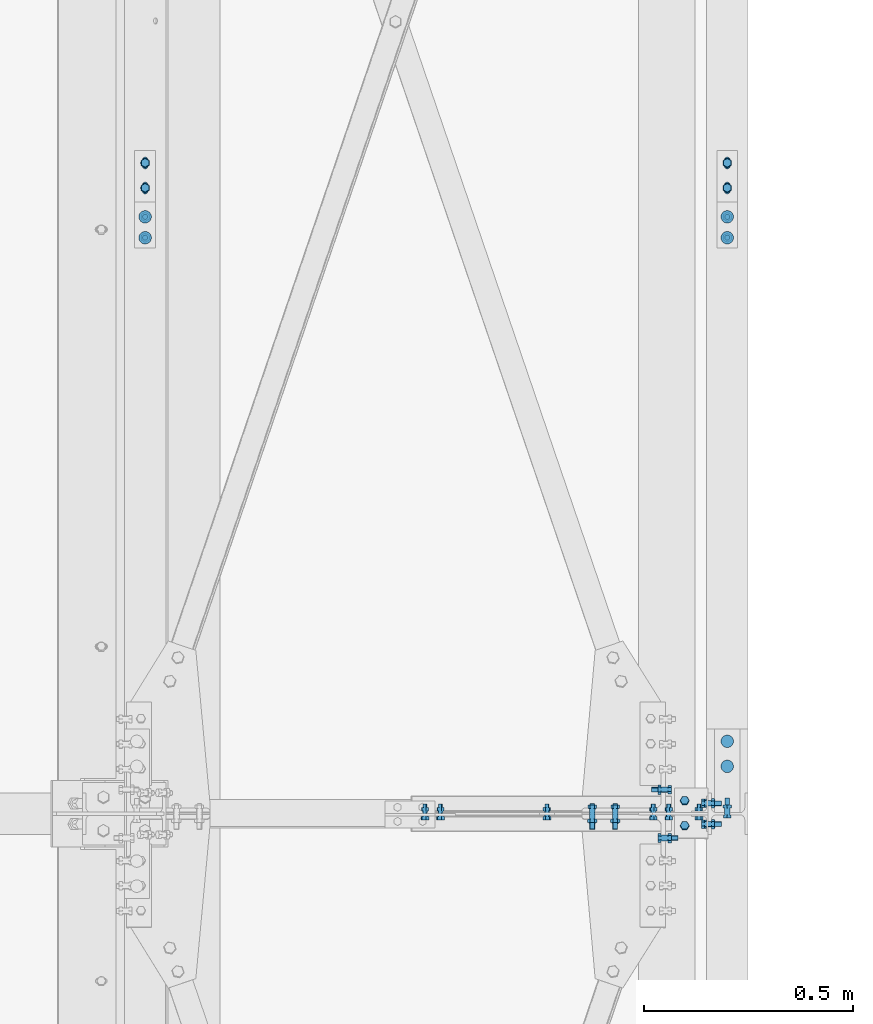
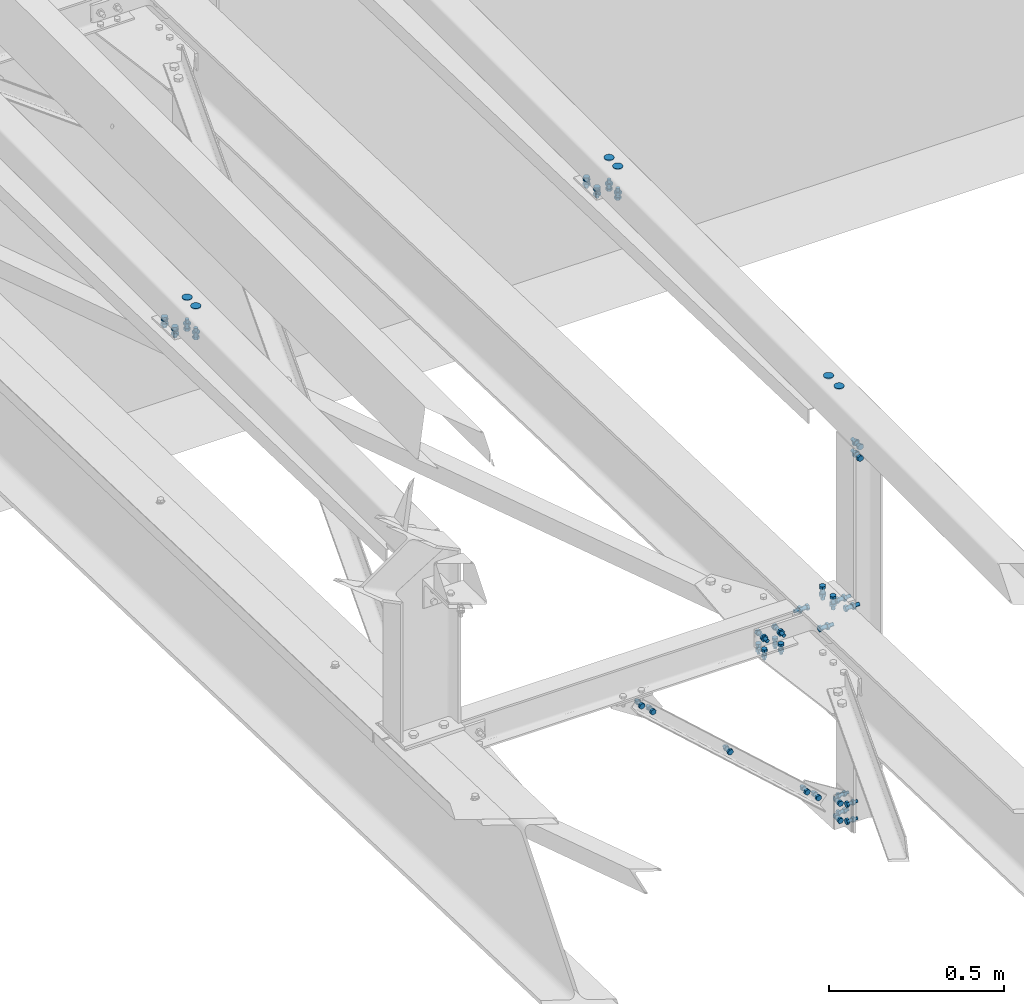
# One storey, part 322 of 362: 21 mechanical fasteners.
"""IFC2X3 building model written with IfcOpenShell, lengths in millimetres."""

from ifc_helpers import new_model, si_unit, frame, frame_2d, origin_with_axes, origin_2d_with_axis, place, context, subcontext, project, spatial, polyline, circle_curve, parameter, trimmed, segment, composite_curve, circle, outline, extrude, source, transform, mapped, material, type_object, element, save


model = new_model("IFC2X3")

# Units and contexts
model_context = context("Model", 3, precision=1e-05, world=origin_with_axes())
body_context = subcontext(model_context, "Body", "Model", "MODEL_VIEW")
ifc_project = project(units=[si_unit("LENGTHUNIT", "METRE", prefix="MILLI"), si_unit("AREAUNIT", "SQUARE_METRE"), si_unit("VOLUMEUNIT", "CUBIC_METRE"), si_unit("MASSUNIT", "GRAM", prefix="KILO"), si_unit("TIMEUNIT", "SECOND"), si_unit("PLANEANGLEUNIT", "RADIAN"), si_unit("SOLIDANGLEUNIT", "STERADIAN"), si_unit("THERMODYNAMICTEMPERATUREUNIT", "DEGREE_CELSIUS"), si_unit("LUMINOUSINTENSITYUNIT", "LUMEN")], contexts=[model_context])

# Site, building, storey
site_placement = place(None, origin_with_axes())
site = spatial("IfcSite", under=ifc_project, at=site_placement, Name="Undefined", CompositionType="ELEMENT")
building_placement = place(site_placement, origin_with_axes())
building = spatial("IfcBuilding", under=site, at=building_placement, Name="Undefined", CompositionType="ELEMENT")
storey_placement = place(building_placement, origin_with_axes())
storey = spatial("IfcBuildingStorey", under=building, at=storey_placement, Name="Undefined", CompositionType="ELEMENT", Elevation=0.0)

# Mechanical fasteners
ifc_material_1 = material(Name="6.8")
mechanical_fastener_type = type_object("IfcMechanicalFastenerType", Name="Bolt assembly")
shared_shape_1 = source(origin_with_axes(), body_context, "Body", "SweptSolid", [
    extrude(circle(Radius=15.0, at=origin_2d_with_axis()), frame((0.0, 0.0, 0.0), z_axis=(0.0, 1.0, 0.0), x_axis=(1.0, 0.0, 0.0)), (0.0, 0.0, 1.0), 4.1),
])
mechanical_fastener_1_placement = place(storey_placement, frame((39775.0, 3973.5, 8550.0), z_axis=(1.0, 0.0, 0.0), x_axis=(0.0, -1.0, 0.0)))
element("IfcMechanicalFastener", 1, at=mechanical_fastener_1_placement, inside=storey, type_object=mechanical_fastener_type, material=ifc_material_1, Name="Bolt assembly", NominalDiameter=30.0, NominalLength=4.0, context=body_context, shape_type="MappedRepresentation", body=[
    mapped(shared_shape_1, transform((0.0, 0.0, 0.0))),
    mapped(shared_shape_1, transform((60.0, 0.0, 0.0))),
])
for number, where, z_axis, x_axis, name in (
    (2, (39775.0, 5230.39, 8550.0), (1.0, 0.0, 0.0), (0.0, -1.0, 0.0), "Bolt assembly"),
    (3, (38380.0, 5230.39, 8550.0), (1.0, 0.0, 0.0), (0.0, -1.0, 0.0), "Bolt assembly"),
):
    element("IfcMechanicalFastener", number, at=place(storey_placement, frame(where, z_axis=z_axis, x_axis=x_axis)), inside=storey, type_object=mechanical_fastener_type, material=ifc_material_1, Name=name, NominalDiameter=30.0, NominalLength=4.0, context=body_context, shape_type="MappedRepresentation", body=[
        mapped(shared_shape_1, transform((0.0, 0.0, 0.0))),
        mapped(shared_shape_1, transform((49.9999999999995, 0.0, -3.63797880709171e-12))),
    ])
shared_shape_2 = source(origin_with_axes(), body_context, "Body", "SweptSolid", [
    extrude(circle(Radius=6.0, at=origin_2d_with_axis()), frame((0.0, -6.9, 0.0), z_axis=(0.0, 1.0, 0.0), x_axis=(1.0, 0.0, 0.0)), (0.0, 0.0, 1.0), 4.0),
    extrude(circle(Radius=6.0, at=origin_2d_with_axis()), frame((0.0, 2.90000527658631, 0.0), z_axis=(0.0, 1.0, 0.0), x_axis=(1.0, 0.0, 0.0)), (0.0, 0.0, 1.0), 4.1),
    extrude(circle(Radius=6.0, at=origin_2d_with_axis()), frame((0.0, -2.99999932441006, 0.0), z_axis=(0.0, 1.0, 0.0), x_axis=(1.0, 0.0, 0.0)), (0.0, 0.0, 1.0), 6.0),
    extrude(outline(polyline([(9.81495457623, 0.0), (4.907477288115, 8.5000000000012), (-4.907477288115, 8.5000000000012), (-9.81495457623, 0.0), (-4.907477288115, -8.5000000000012), (4.907477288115, -8.5000000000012), (9.81495457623, 0.0)])), frame((0.0, -14.5000000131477, 0.0), z_axis=(0.0, 1.0, 0.0), x_axis=(1.0, 0.0, 0.0)), (0.0, 0.0, 1.0), 7.5),
    extrude(circle(Radius=5.0, at=origin_2d_with_axis()), frame((0.0, -7.0, 0.0), z_axis=(0.0, 1.0, 0.0), x_axis=(1.0, 0.0, 0.0)), (0.0, 0.0, 1.0), 30.0),
    extrude(outline(polyline([(9.23760430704, 0.0), (4.61880215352, 8.00000000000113), (-4.61880215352, 8.00000000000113), (-9.23760430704, 0.0), (-4.61880215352, -8.00000000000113), (4.61880215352, -8.00000000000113), (9.23760430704, 0.0)])), frame((0.0, 7.0, 0.0), z_axis=(0.0, 1.0, 0.0), x_axis=(1.0, 0.0, 0.0)), (0.0, 0.0, 1.0), 8.4),
])
mechanical_fastener_2_placement = place(storey_placement, frame((39342.7441351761, 3800.00038406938, 7497.58868230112), z_axis=(-0.743333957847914, 0.0, 0.668920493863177), x_axis=(0.668920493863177, 0.0, 0.743333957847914)))
element("IfcMechanicalFastener", 4, at=mechanical_fastener_2_placement, inside=storey, type_object=mechanical_fastener_type, material=ifc_material_1, Name="Bolt assembly", NominalDiameter=10.0, NominalLength=30.0, context=body_context, shape_type="MappedRepresentation", body=[
    mapped(shared_shape_2, transform((0.0, 0.0, 0.0))),
])
mechanical_fastener_3_placement = place(storey_placement, frame((39707.0000003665, 3800.0, 7160.00000925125), z_axis=(0.0, 0.0, 1.0), x_axis=(1.0, 0.0, 0.0)))
element("IfcMechanicalFastener", 5, at=mechanical_fastener_3_placement, inside=storey, type_object=mechanical_fastener_type, material=ifc_material_1, Name="Bolt assembly", NominalDiameter=10.0, NominalLength=30.0, context=body_context, shape_type="MappedRepresentation", body=[
    mapped(shared_shape_2, transform((0.0, 0.0, -30.0))),
    mapped(shared_shape_2, transform((0.0, 0.0, 30.0))),
])
ifc_material_2 = material(Name="8.8-SB-ZINGUE")
shared_shape_3 = source(origin_with_axes(), body_context, "Body", "SweptSolid", [
    extrude(circle(Radius=7.0, at=origin_2d_with_axis()), frame((0.0, -0.100011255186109, 0.0), z_axis=(0.0, 1.0, 0.0), x_axis=(1.0, 0.0, 0.0)), (0.0, 0.0, 1.0), 4.1),
    extrude(circle(Radius=7.0, at=origin_2d_with_axis()), frame((0.0, -5.8999542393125, 0.0), z_axis=(0.0, 1.0, 0.0), x_axis=(1.0, 0.0, 0.0)), (0.0, 0.0, 1.0), 6.0),
    extrude(outline(polyline([(10.39230484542, 0.0), (5.19615242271, 9.00000000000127), (-5.19615242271, 9.00000000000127), (-10.39230484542, 0.0), (-5.19615242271, -9.00000000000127), (5.19615242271, -9.00000000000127), (10.39230484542, 0.0)])), frame((0.0, -13.9199542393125, 0.0), z_axis=(0.0, 1.0, 0.0), x_axis=(1.0, 0.0, 0.0)), (0.0, 0.0, 1.0), 7.92),
    extrude(circle(Radius=6.0, at=origin_2d_with_axis()), frame((0.0, -5.9999542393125, 0.0), z_axis=(0.0, 1.0, 0.0), x_axis=(1.0, 0.0, 0.0)), (0.0, 0.0, 1.0), 30.0),
    extrude(outline(polyline([(11.5008173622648, 0.0), (5.7504086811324, 9.96000000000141), (-5.7504086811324, 9.96000000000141), (-11.5008173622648, 0.0), (-5.7504086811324, -9.96000000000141), (5.7504086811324, -9.96000000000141), (11.5008173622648, 0.0)])), frame((0.0, 4.00000005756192, 0.0), z_axis=(0.0, 1.0, 0.0), x_axis=(1.0, 0.0, 0.0)), (0.0, 0.0, 1.0), 7.92),
])
for number, where, z_axis, x_axis, name in (
    (6, (39775.0, 5180.38587692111, 8450.0), (1.0, 0.0, 0.0), (0.0, 1.0, 0.0), "Bolt assembly"),
    (7, (38380.0, 5180.38587692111, 8450.0), (1.0, 0.0, 0.0), (0.0, 1.0, 0.0), "Bolt assembly"),
):
    element("IfcMechanicalFastener", number, at=place(storey_placement, frame(where, z_axis=z_axis, x_axis=x_axis)), inside=storey, type_object=mechanical_fastener_type, material=ifc_material_2, Name=name, NominalDiameter=12.0, NominalLength=30.0, context=body_context, shape_type="MappedRepresentation", body=[
        mapped(shared_shape_3, transform((0.0, 0.0, 0.0))),
        mapped(shared_shape_3, transform((49.9999999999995, 0.0, -3.63797880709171e-12))),
    ])
shared_shape_4 = source(origin_with_axes(), body_context, "Body", "SweptSolid", [
    extrude(circle(Radius=7.0, at=origin_2d_with_axis()), frame((0.0, -2.4001048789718, 0.0), z_axis=(0.0, 1.0, 0.0), x_axis=(1.0, 0.0, 0.0)), (0.0, 0.0, 1.0), 5.0),
    extrude(circle(Radius=7.0, at=origin_2d_with_axis()), frame((0.0, 3.3998951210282, 0.0), z_axis=(0.0, 1.0, 0.0), x_axis=(1.0, 0.0, 0.0)), (0.0, 0.0, 1.0), 10.1),
    extrude(outline(polyline([(10.39230484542, 0.0), (5.19615242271, 9.00000000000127), (-5.19615242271, 9.00000000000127), (-10.39230484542, 0.0), (-5.19615242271, -9.00000000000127), (5.19615242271, -9.00000000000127), (10.39230484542, 0.0)])), frame((0.0, -10.4201048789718, 0.0), z_axis=(0.0, 1.0, 0.0), x_axis=(1.0, 0.0, 0.0)), (0.0, 0.0, 1.0), 7.92),
    extrude(circle(Radius=6.0, at=origin_2d_with_axis()), frame((0.0, -2.50010487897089, 0.0), z_axis=(0.0, 1.0, 0.0), x_axis=(1.0, 0.0, 0.0)), (0.0, 0.0, 1.0), 40.0),
    extrude(outline(polyline([(11.5008173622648, 0.0), (5.7504086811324, 9.96000000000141), (-5.7504086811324, 9.96000000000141), (-11.5008173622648, 0.0), (-5.7504086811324, -9.96000000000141), (5.7504086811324, -9.96000000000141), (11.5008173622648, 0.0)])), frame((0.0, 13.4998951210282, 0.0), z_axis=(0.0, 1.0, 0.0), x_axis=(1.0, 0.0, 0.0)), (0.0, 0.0, 1.0), 7.92),
])
mechanical_fastener_4_placement = place(storey_placement, frame((39775.0, 3800.00010487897, 8370.0), z_axis=(-1.0, 0.0, 0.0), x_axis=(0.0, 0.0, 1.0)))
element("IfcMechanicalFastener", 8, at=mechanical_fastener_4_placement, inside=storey, type_object=mechanical_fastener_type, material=ifc_material_2, Name="Bolt assembly", NominalDiameter=12.0, NominalLength=40.0, context=body_context, shape_type="MappedRepresentation", body=[
    mapped(shared_shape_4, transform((0.0, 0.0, 0.0))),
    mapped(shared_shape_4, transform((40.0, 0.0, 0.0))),
])
shared_shape_5 = source(origin_with_axes(), body_context, "Body", "SweptSolid", [
    extrude(circle(Radius=7.0, at=origin_2d_with_axis()), frame((0.0, -0.0668320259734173, 0.0), z_axis=(0.0, 1.0, 0.0), x_axis=(1.0, 0.0, 0.0)), (0.0, 0.0, 1.0), 4.1),
    extrude(outline(composite_curve([segment(polyline([(-7.0, 7.0), (7.0, 7.0)]), True, "CONTINUOUS"), segment(trimmed(circle_curve(frame_2d((7.0, 0.0), x_axis=(0.0, 1.0)), 7.0), [parameter(0.0)], [parameter(3.14159265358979)], False, "PARAMETER"), True, "CONTINUOUS"), segment(polyline([(7.0, -7.0), (-7.0, -7.0)]), True, "CONTINUOUS"), segment(trimmed(circle_curve(frame_2d((-7.0, 0.0), x_axis=(0.0, -1.0)), 7.0), [parameter(0.0)], [parameter(3.14159265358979)], False, "PARAMETER"), True, "DISCONTINUOUS")], self_intersect=False)), frame((0.0, -5.8999542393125, 0.0), z_axis=(0.0, 1.0, 0.0), x_axis=(1.0, 0.0, 0.0)), (0.0, 0.0, 1.0), 6.0),
    extrude(outline(polyline([(10.39230484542, 0.0), (5.19615242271, 9.00000000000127), (-5.19615242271, 9.00000000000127), (-10.39230484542, 0.0), (-5.19615242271, -9.00000000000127), (5.19615242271, -9.00000000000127), (10.39230484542, 0.0)])), frame((0.0, -17.8800021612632, 0.0), z_axis=(0.0, 1.0, 0.0), x_axis=(1.0, 0.0, 0.0)), (0.0, 0.0, 1.0), 7.92),
    extrude(circle(Radius=6.0, at=origin_2d_with_axis()), frame((0.0, -9.96000216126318, 0.0), z_axis=(0.0, 1.0, 0.0), x_axis=(1.0, 0.0, 0.0)), (0.0, 0.0, 1.0), 30.0),
    extrude(circle(Radius=10.8, at=origin_2d_with_axis()), frame((0.0, -9.96000216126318, 0.0), z_axis=(0.0, 1.0, 0.0), x_axis=(1.0, 0.0, 0.0)), (0.0, 0.0, 1.0), 3.96),
    extrude(outline(polyline([(11.5008173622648, 0.0), (5.7504086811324, 9.96000000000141), (-5.7504086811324, 9.96000000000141), (-11.5008173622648, 0.0), (-5.7504086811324, -9.96000000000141), (5.7504086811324, -9.96000000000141), (11.5008173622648, 0.0)])), frame((0.0, 4.03316797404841, 0.0), z_axis=(0.0, 1.0, 0.0), x_axis=(1.0, 0.0, 0.0)), (0.0, 0.0, 1.0), 7.92),
])
mechanical_fastener_5_placement = place(storey_placement, frame((39775.0, 5359.3365202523, 8386.85855943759), z_axis=(1.0, 0.0, 0.0), x_axis=(0.0, -0.999506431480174, 0.0314148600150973)))
element("IfcMechanicalFastener", 9, at=mechanical_fastener_5_placement, inside=storey, type_object=mechanical_fastener_type, material=ifc_material_2, Name="Bolt assembly", NominalDiameter=12.0, NominalLength=30.0, context=body_context, shape_type="MappedRepresentation", body=[
    mapped(shared_shape_5, transform((0.0, 0.0, 0.0))),
    mapped(shared_shape_5, transform((60.0, 0.0, 0.0))),
])
shared_shape_6 = source(origin_with_axes(), body_context, "Body", "SweptSolid", [
    extrude(circle(Radius=7.0, at=origin_2d_with_axis()), frame((0.0, -0.100011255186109, 0.0), z_axis=(0.0, 1.0, 0.0), x_axis=(1.0, 0.0, 0.0)), (0.0, 0.0, 1.0), 4.1),
    extrude(outline(composite_curve([segment(polyline([(-7.0, 7.0), (7.0, 7.0)]), True, "CONTINUOUS"), segment(trimmed(circle_curve(frame_2d((7.0, 0.0), x_axis=(0.0, 1.0)), 7.0), [parameter(0.0)], [parameter(3.14159265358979)], False, "PARAMETER"), True, "CONTINUOUS"), segment(polyline([(7.0, -7.0), (-7.0, -7.0)]), True, "CONTINUOUS"), segment(trimmed(circle_curve(frame_2d((-7.0, 0.0), x_axis=(0.0, -1.0)), 7.0), [parameter(0.0)], [parameter(3.14159265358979)], False, "PARAMETER"), True, "DISCONTINUOUS")], self_intersect=False)), frame((0.0, -5.8999542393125, 0.0), z_axis=(0.0, 1.0, 0.0), x_axis=(1.0, 0.0, 0.0)), (0.0, 0.0, 1.0), 6.0),
    extrude(outline(polyline([(10.39230484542, 0.0), (5.19615242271, 9.00000000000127), (-5.19615242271, 9.00000000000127), (-10.39230484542, 0.0), (-5.19615242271, -9.00000000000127), (5.19615242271, -9.00000000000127), (10.39230484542, 0.0)])), frame((0.0, -17.8800021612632, 0.0), z_axis=(0.0, 1.0, 0.0), x_axis=(1.0, 0.0, 0.0)), (0.0, 0.0, 1.0), 7.92),
    extrude(circle(Radius=6.0, at=origin_2d_with_axis()), frame((0.0, -9.96000216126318, 0.0), z_axis=(0.0, 1.0, 0.0), x_axis=(1.0, 0.0, 0.0)), (0.0, 0.0, 1.0), 30.0),
    extrude(circle(Radius=10.8, at=origin_2d_with_axis()), frame((0.0, -9.96000216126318, 0.0), z_axis=(0.0, 1.0, 0.0), x_axis=(1.0, 0.0, 0.0)), (0.0, 0.0, 1.0), 3.96),
    extrude(outline(polyline([(11.5008173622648, 0.0), (5.7504086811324, 9.96000000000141), (-5.7504086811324, 9.96000000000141), (-11.5008173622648, 0.0), (-5.7504086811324, -9.96000000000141), (5.7504086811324, -9.96000000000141), (11.5008173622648, 0.0)])), frame((0.0, 4.00000005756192, 0.0), z_axis=(0.0, 1.0, 0.0), x_axis=(1.0, 0.0, 0.0)), (0.0, 0.0, 1.0), 7.92),
])
mechanical_fastener_6_placement = place(storey_placement, frame((38380.0, 5359.3365202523, 8386.85855943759), z_axis=(1.0, 0.0, 0.0), x_axis=(0.0, -0.999506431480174, 0.0314148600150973)))
element("IfcMechanicalFastener", 10, at=mechanical_fastener_6_placement, inside=storey, type_object=mechanical_fastener_type, material=ifc_material_2, Name="Bolt assembly", NominalDiameter=12.0, NominalLength=30.0, context=body_context, shape_type="MappedRepresentation", body=[
    mapped(shared_shape_6, transform((0.0, 0.0, 0.0))),
    mapped(shared_shape_6, transform((60.0, 0.0, 0.0))),
])
shared_shape_7 = source(origin_with_axes(), body_context, "Body", "SweptSolid", [
    extrude(circle(Radius=6.0, at=origin_2d_with_axis()), frame((0.0, -6.89961591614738, 0.0), z_axis=(0.0, 1.0, 0.0), x_axis=(1.0, 0.0, 0.0)), (0.0, 0.0, 1.0), 4.0),
    extrude(circle(Radius=6.0, at=origin_2d_with_axis()), frame((0.0, 2.90038411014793, 0.0), z_axis=(0.0, 1.0, 0.0), x_axis=(1.0, 0.0, 0.0)), (0.0, 0.0, 1.0), 4.1),
    extrude(circle(Radius=6.0, at=origin_2d_with_axis()), frame((0.0, -2.99999932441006, 0.0), z_axis=(0.0, 1.0, 0.0), x_axis=(1.0, 0.0, 0.0)), (0.0, 0.0, 1.0), 6.0),
    extrude(outline(polyline([(9.81495457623, 0.0), (4.907477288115, 8.5000000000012), (-4.907477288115, 8.5000000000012), (-9.81495457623, 0.0), (-4.907477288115, -8.5000000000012), (4.907477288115, -8.5000000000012), (9.81495457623, 0.0)])), frame((0.0, -14.4996159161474, 0.0), z_axis=(0.0, 1.0, 0.0), x_axis=(1.0, 0.0, 0.0)), (0.0, 0.0, 1.0), 7.5),
    extrude(circle(Radius=5.0, at=origin_2d_with_axis()), frame((0.0, -6.99961591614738, 0.0), z_axis=(0.0, 1.0, 0.0), x_axis=(1.0, 0.0, 0.0)), (0.0, 0.0, 1.0), 30.0),
    extrude(outline(polyline([(9.23760430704, 0.0), (4.61880215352, 8.00000000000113), (-4.61880215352, 8.00000000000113), (-9.23760430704, 0.0), (-4.61880215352, -8.00000000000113), (4.61880215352, -8.00000000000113), (9.23760430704, 0.0)])), frame((0.0, 7.00036854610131, 0.0), z_axis=(0.0, 1.0, 0.0), x_axis=(1.0, 0.0, 0.0)), (0.0, 0.0, 1.0), 8.4),
])
mechanical_fastener_7_placement = place(storey_placement, frame((39634.738223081, 3800.0, 7234.82545515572), z_axis=(-0.66892049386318, 0.0, -0.74333395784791), x_axis=(-0.743333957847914, 0.0, 0.668920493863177)))
element("IfcMechanicalFastener", 11, at=mechanical_fastener_7_placement, inside=storey, type_object=mechanical_fastener_type, material=ifc_material_1, Name="Bolt assembly", NominalDiameter=10.0, NominalLength=30.0, context=body_context, shape_type="MappedRepresentation", body=[
    mapped(shared_shape_7, transform((0.0, 0.0, 0.0))),
    mapped(shared_shape_7, transform((49.9999999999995, 0.0, -3.63797880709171e-12))),
])
shared_shape_8 = source(origin_with_axes(), body_context, "Body", "SweptSolid", [
    extrude(circle(Radius=6.0, at=origin_2d_with_axis()), frame((0.0, -6.89961591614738, 0.0), z_axis=(0.0, 1.0, 0.0), x_axis=(1.0, 0.0, 0.0)), (0.0, 0.0, 1.0), 4.0),
    extrude(circle(Radius=6.0, at=origin_2d_with_axis()), frame((0.0, 2.90038411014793, 0.0), z_axis=(0.0, 1.0, 0.0), x_axis=(1.0, 0.0, 0.0)), (0.0, 0.0, 1.0), 4.1),
    extrude(circle(Radius=6.0, at=origin_2d_with_axis()), frame((0.0, -4.88000000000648, 0.0), z_axis=(0.0, 1.0, 0.0), x_axis=(1.0, 0.0, 0.0)), (0.0, 0.0, 1.0), 6.0),
    extrude(outline(polyline([(9.81495457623, 0.0), (4.907477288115, 8.5000000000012), (-4.907477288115, 8.5000000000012), (-9.81495457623, 0.0), (-4.907477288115, -8.5000000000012), (4.907477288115, -8.5000000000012), (9.81495457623, 0.0)])), frame((0.0, -14.4996159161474, 0.0), z_axis=(0.0, 1.0, 0.0), x_axis=(1.0, 0.0, 0.0)), (0.0, 0.0, 1.0), 7.5),
    extrude(circle(Radius=5.0, at=origin_2d_with_axis()), frame((0.0, -6.99961591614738, 0.0), z_axis=(0.0, 1.0, 0.0), x_axis=(1.0, 0.0, 0.0)), (0.0, 0.0, 1.0), 30.0),
    extrude(outline(polyline([(9.23760430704, 0.0), (4.61880215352, 8.00000000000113), (-4.61880215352, 8.00000000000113), (-9.23760430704, 0.0), (-4.61880215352, -8.00000000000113), (4.61880215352, -8.00000000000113), (9.23760430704, 0.0)])), frame((0.0, 7.00036854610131, 0.0), z_axis=(0.0, 1.0, 0.0), x_axis=(1.0, 0.0, 0.0)), (0.0, 0.0, 1.0), 8.4),
])
mechanical_fastener_8_placement = place(storey_placement, frame((39050.7500471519, 3800.0, 7760.35190931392), z_axis=(0.668920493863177, 0.0, 0.743333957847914), x_axis=(0.743333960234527, 0.0, -0.668920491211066)))
element("IfcMechanicalFastener", 12, at=mechanical_fastener_8_placement, inside=storey, type_object=mechanical_fastener_type, material=ifc_material_1, Name="Bolt assembly", NominalDiameter=10.0, NominalLength=30.0, context=body_context, shape_type="MappedRepresentation", body=[
    mapped(shared_shape_8, transform((0.0, 0.0, 0.0))),
    mapped(shared_shape_8, transform((49.9999999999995, 0.0, -3.63797880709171e-12))),
])
shared_shape_9 = source(origin_with_axes(), body_context, "Body", "SweptSolid", [
    extrude(circle(Radius=6.0, at=origin_2d_with_axis()), frame((0.0, -0.100011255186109, 0.0), z_axis=(0.0, 1.0, 0.0), x_axis=(1.0, 0.0, 0.0)), (0.0, 0.0, 1.0), 8.1),
    extrude(circle(Radius=6.0, at=origin_2d_with_axis()), frame((0.0, -3.89999843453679, 0.0), z_axis=(0.0, 1.0, 0.0), x_axis=(1.0, 0.0, 0.0)), (0.0, 0.0, 1.0), 4.0),
    extrude(outline(polyline([(9.81495457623, 0.0), (4.907477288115, 8.5000000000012), (-4.907477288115, 8.5000000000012), (-9.81495457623, 0.0), (-4.907477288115, -8.5000000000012), (4.907477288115, -8.5000000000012), (9.81495457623, 0.0)])), frame((0.0, -11.5, 0.0), z_axis=(0.0, 1.0, 0.0), x_axis=(1.0, 0.0, 0.0)), (0.0, 0.0, 1.0), 7.5),
    extrude(circle(Radius=5.0, at=origin_2d_with_axis()), frame((0.0, -3.99999923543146, 0.0), z_axis=(0.0, 1.0, 0.0), x_axis=(1.0, 0.0, 0.0)), (0.0, 0.0, 1.0), 30.0),
    extrude(outline(polyline([(9.23760430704, 0.0), (4.61880215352, 8.00000000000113), (-4.61880215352, 8.00000000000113), (-9.23760430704, 0.0), (-4.61880215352, -8.00000000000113), (4.61880215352, -8.00000000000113), (9.23760430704, 0.0)])), frame((0.0, 8.00000527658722, 0.0), z_axis=(0.0, 1.0, 0.0), x_axis=(1.0, 0.0, 0.0)), (0.0, 0.0, 1.0), 8.4),
])
for number, where, z_axis, x_axis, name in (
    (13, (39729.0000003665, 3825.0, 7160.00000925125), (0.0, 0.0, 1.0), (0.0, -1.0, 0.0), "Bolt assembly"),
    (14, (39729.0000003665, 3775.0, 7160.00000925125), (0.0, 0.0, -1.0), (0.0, 1.0, 0.0), "Bolt assembly"),
):
    element("IfcMechanicalFastener", number, at=place(storey_placement, frame(where, z_axis=z_axis, x_axis=x_axis)), inside=storey, type_object=mechanical_fastener_type, material=ifc_material_1, Name=name, NominalDiameter=10.0, NominalLength=30.0, context=body_context, shape_type="MappedRepresentation", body=[
        mapped(shared_shape_9, transform((0.0, 0.0, -30.0))),
        mapped(shared_shape_9, transform((0.0, 0.0, 30.0))),
    ])
ifc_material_3 = material(Name="#_SB-8.8-ZINGUE")
shared_shape_10 = source(origin_with_axes(), body_context, "Body", "SweptSolid", [
    extrude(circle(Radius=7.0, at=origin_2d_with_axis()), frame((0.0, -10.0999860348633, 0.0), z_axis=(0.0, 1.0, 0.0), x_axis=(1.0, 0.0, 0.0)), (0.0, 0.0, 1.0), 10.2),
    extrude(circle(Radius=7.0, at=origin_2d_with_axis()), frame((0.0, -0.100011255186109, 0.0), z_axis=(0.0, 1.0, 0.0), x_axis=(1.0, 0.0, 0.0)), (0.0, 0.0, 1.0), 8.1),
    extrude(outline(polyline([(10.39230484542, 0.0), (5.19615242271, 9.00000000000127), (-5.19615242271, 9.00000000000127), (-10.39230484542, 0.0), (-5.19615242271, -9.00000000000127), (5.19615242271, -9.00000000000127), (10.39230484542, 0.0)])), frame((0.0, -18.1199860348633, 0.0), z_axis=(0.0, 1.0, 0.0), x_axis=(1.0, 0.0, 0.0)), (0.0, 0.0, 1.0), 7.92),
    extrude(circle(Radius=6.0, at=origin_2d_with_axis()), frame((0.0, -10.1999860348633, 0.0), z_axis=(0.0, 1.0, 0.0), x_axis=(1.0, 0.0, 0.0)), (0.0, 0.0, 1.0), 40.0),
    extrude(outline(polyline([(11.5008173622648, 0.0), (5.7504086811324, 9.96000000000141), (-5.7504086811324, 9.96000000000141), (-11.5008173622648, 0.0), (-5.7504086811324, -9.96000000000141), (5.7504086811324, -9.96000000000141), (11.5008173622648, 0.0)])), frame((0.0, 8.00000527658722, 0.0), z_axis=(0.0, 1.0, 0.0), x_axis=(1.0, 0.0, 0.0)), (0.0, 0.0, 1.0), 7.92),
])
mechanical_fastener_9_placement = place(storey_placement, frame((39673.0, 3801.4134842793, 7920.33073337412), z_axis=(3.14103090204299e-11, 0.999506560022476, -0.0314107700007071), x_axis=(1.0, 0.0, 0.0)))
element("IfcMechanicalFastener", 15, at=mechanical_fastener_9_placement, inside=storey, type_object=mechanical_fastener_type, material=ifc_material_3, Name="Bolt assembly", NominalDiameter=12.0, NominalLength=40.0, context=body_context, shape_type="MappedRepresentation", body=[
    mapped(shared_shape_10, transform((0.0, 0.0, -30.0))),
    mapped(shared_shape_10, transform((0.0, 0.0, 30.0))),
])
shared_shape_11 = source(origin_with_axes(), body_context, "Body", "SweptSolid", [
    extrude(circle(Radius=7.0, at=origin_2d_with_axis()), frame((0.0, -0.100011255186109, 0.0), z_axis=(0.0, 1.0, 0.0), x_axis=(1.0, 0.0, 0.0)), (0.0, 0.0, 1.0), 8.1),
    extrude(circle(Radius=7.0, at=origin_2d_with_axis()), frame((0.0, -7.9, 0.0), z_axis=(0.0, 1.0, 0.0), x_axis=(1.0, 0.0, 0.0)), (0.0, 0.0, 1.0), 8.0),
    extrude(outline(polyline([(10.39230484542, 0.0), (5.19615242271, 9.00000000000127), (-5.19615242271, 9.00000000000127), (-10.39230484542, 0.0), (-5.19615242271, -9.00000000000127), (5.19615242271, -9.00000000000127), (10.39230484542, 0.0)])), frame((0.0, -15.92, 0.0), z_axis=(0.0, 1.0, 0.0), x_axis=(1.0, 0.0, 0.0)), (0.0, 0.0, 1.0), 7.92),
    extrude(circle(Radius=6.0, at=origin_2d_with_axis()), frame((0.0, -8.0, 0.0), z_axis=(0.0, 1.0, 0.0), x_axis=(1.0, 0.0, 0.0)), (0.0, 0.0, 1.0), 40.0),
    extrude(outline(polyline([(11.5008173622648, 0.0), (5.7504086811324, 9.96000000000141), (-5.7504086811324, 9.96000000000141), (-11.5008173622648, 0.0), (-5.7504086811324, -9.96000000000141), (5.7504086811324, -9.96000000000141), (11.5008173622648, 0.0)])), frame((0.0, 8.00000527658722, 0.0), z_axis=(0.0, 1.0, 0.0), x_axis=(1.0, 0.0, 0.0)), (0.0, 0.0, 1.0), 7.92),
])
for number, where, z_axis, x_axis, name in (
    (16, (39729.0, 3825.00000009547, 7874.56728151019), (-1.05403257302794e-09, -0.0314112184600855, -0.999506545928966), (3.14103090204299e-11, 0.999506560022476, -0.0314107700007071), "Bolt assembly"),
    (17, (39729.0, 3775.00000010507, 7876.13859480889), (7.58071938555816e-11, 0.0314107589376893, 0.999506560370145), (0.0, -0.999506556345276, 0.031410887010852), "Bolt assembly"),
):
    element("IfcMechanicalFastener", number, at=place(storey_placement, frame(where, z_axis=z_axis, x_axis=x_axis)), inside=storey, type_object=mechanical_fastener_type, material=ifc_material_3, Name=name, NominalDiameter=12.0, NominalLength=40.0, context=body_context, shape_type="MappedRepresentation", body=[
        mapped(shared_shape_11, transform((0.0, 0.0, 0.0))),
    ])
shared_shape_12 = source(origin_with_axes(), body_context, "Body", "SweptSolid", [
    extrude(circle(Radius=6.0, at=origin_2d_with_axis()), frame((0.0, -6.19999893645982, 0.0), z_axis=(0.0, 1.0, 0.0), x_axis=(1.0, 0.0, 0.0)), (0.0, 0.0, 1.0), 6.3),
    extrude(circle(Radius=6.0, at=origin_2d_with_axis()), frame((0.0, -0.10007666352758, 0.0), z_axis=(0.0, 1.0, 0.0), x_axis=(1.0, 0.0, 0.0)), (0.0, 0.0, 1.0), 6.1),
    extrude(outline(polyline([(9.81495457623, 0.0), (4.907477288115, 8.5000000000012), (-4.907477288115, 8.5000000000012), (-9.81495457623, 0.0), (-4.907477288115, -8.5000000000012), (4.907477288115, -8.5000000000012), (9.81495457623, 0.0)])), frame((0.0, -13.7999989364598, 0.0), z_axis=(0.0, 1.0, 0.0), x_axis=(1.0, 0.0, 0.0)), (0.0, 0.0, 1.0), 7.5),
    extrude(circle(Radius=5.0, at=origin_2d_with_axis()), frame((0.0, -6.29999893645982, 0.0), z_axis=(0.0, 1.0, 0.0), x_axis=(1.0, 0.0, 0.0)), (0.0, 0.0, 1.0), 30.0),
    extrude(outline(polyline([(9.23760430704, 0.0), (4.61880215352, 8.00000000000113), (-4.61880215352, 8.00000000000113), (-9.23760430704, 0.0), (-4.61880215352, -8.00000000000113), (4.61880215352, -8.00000000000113), (9.23760430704, 0.0)])), frame((0.0, 6.0, 0.0), z_axis=(0.0, 1.0, 0.0), x_axis=(1.0, 0.0, 0.0)), (0.0, 0.0, 1.0), 8.4),
])
mechanical_fastener_10_placement = place(storey_placement, frame((39451.5000116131, 3798.1157713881, 7810.58010700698), z_axis=(3.14103090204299e-11, 0.999506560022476, -0.0314107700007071), x_axis=(1.0, 0.0, 0.0)))
element("IfcMechanicalFastener", 18, at=mechanical_fastener_10_placement, inside=storey, type_object=mechanical_fastener_type, material=ifc_material_1, Name="Bolt assembly", NominalDiameter=10.0, NominalLength=30.0, context=body_context, shape_type="MappedRepresentation", body=[
    mapped(shared_shape_12, transform((0.0, 3.18323145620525e-11, -16.9999999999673))),
    mapped(shared_shape_12, transform((55.0, 8.18545231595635e-12, -16.9999999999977))),
    mapped(shared_shape_12, transform((0.0, -3.18323145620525e-11, 16.9999999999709))),
    mapped(shared_shape_12, transform((55.0, -7.27595761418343e-12, 16.9999999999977))),
])
shared_shape_13 = source(origin_with_axes(), body_context, "Body", "SweptSolid", [
    extrude(circle(Radius=7.0, at=origin_2d_with_axis()), frame((0.0, -1.69999995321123, 0.0), z_axis=(0.0, 1.0, 0.0), x_axis=(1.0, 0.0, 0.0)), (0.0, 0.0, 1.0), 6.6),
    extrude(circle(Radius=7.0, at=origin_2d_with_axis()), frame((0.0, 4.9000000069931, 0.0), z_axis=(0.0, 1.0, 0.0), x_axis=(1.0, 0.0, 0.0)), (0.0, 0.0, 1.0), 10.1),
    extrude(outline(polyline([(10.39230484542, 0.0), (5.19615242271, 9.00000000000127), (-5.19615242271, 9.00000000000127), (-10.39230484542, 0.0), (-5.19615242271, -9.00000000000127), (5.19615242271, -9.00000000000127), (10.39230484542, 0.0)])), frame((0.0, -9.71999995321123, 0.0), z_axis=(0.0, 1.0, 0.0), x_axis=(1.0, 0.0, 0.0)), (0.0, 0.0, 1.0), 7.92),
    extrude(circle(Radius=6.0, at=origin_2d_with_axis()), frame((0.0, -1.79999995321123, 0.0), z_axis=(0.0, 1.0, 0.0), x_axis=(1.0, 0.0, 0.0)), (0.0, 0.0, 1.0), 40.0),
    extrude(outline(polyline([(11.5008173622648, 0.0), (5.7504086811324, 9.96000000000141), (-5.7504086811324, 9.96000000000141), (-11.5008173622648, 0.0), (-5.7504086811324, -9.96000000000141), (5.7504086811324, -9.96000000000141), (11.5008173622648, 0.0)])), frame((0.0, 15.0000000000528, 0.0), z_axis=(0.0, 1.0, 0.0), x_axis=(1.0, 0.0, 0.0)), (0.0, 0.0, 1.0), 7.92),
])
mechanical_fastener_11_placement = place(storey_placement, frame((39631.5, 3857.65812010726, 7858.73357169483), z_axis=(-1.05403257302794e-09, -0.0314112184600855, -0.999506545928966), x_axis=(0.0, -0.999506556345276, 0.031410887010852)))
element("IfcMechanicalFastener", 19, at=mechanical_fastener_11_placement, inside=storey, type_object=mechanical_fastener_type, material=ifc_material_2, Name="Bolt assembly", NominalDiameter=12.0, NominalLength=40.0, context=body_context, shape_type="MappedRepresentation", body=[
    mapped(shared_shape_13, transform((0.0, 0.0, 0.0))),
])
shared_shape_14 = source(origin_with_axes(), body_context, "Body", "SweptSolid", [
    extrude(circle(Radius=7.0, at=origin_2d_with_axis()), frame((0.0, -4.90000000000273, 0.0), z_axis=(0.0, 1.0, 0.0), x_axis=(1.0, 0.0, 0.0)), (0.0, 0.0, 1.0), 6.7),
    extrude(circle(Radius=7.0, at=origin_2d_with_axis()), frame((0.0, -14.899999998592, 0.0), z_axis=(0.0, 1.0, 0.0), x_axis=(1.0, 0.0, 0.0)), (0.0, 0.0, 1.0), 10.0),
    extrude(outline(polyline([(10.39230484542, 0.0), (5.19615242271, 9.00000000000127), (-5.19615242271, 9.00000000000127), (-10.39230484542, 0.0), (-5.19615242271, -9.00000000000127), (5.19615242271, -9.00000000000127), (10.39230484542, 0.0)])), frame((0.0, -22.919999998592, 0.0), z_axis=(0.0, 1.0, 0.0), x_axis=(1.0, 0.0, 0.0)), (0.0, 0.0, 1.0), 7.92),
    extrude(circle(Radius=6.0, at=origin_2d_with_axis()), frame((0.0, -14.999999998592, 0.0), z_axis=(0.0, 1.0, 0.0), x_axis=(1.0, 0.0, 0.0)), (0.0, 0.0, 1.0), 40.0),
    extrude(outline(polyline([(11.5008173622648, 0.0), (5.7504086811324, 9.96000000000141), (-5.7504086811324, 9.96000000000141), (-11.5008173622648, 0.0), (-5.7504086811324, -9.96000000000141), (5.7504086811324, -9.96000000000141), (11.5008173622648, 0.0)])), frame((0.0, 1.79999995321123, 0.0), z_axis=(0.0, 1.0, 0.0), x_axis=(1.0, 0.0, 0.0)), (0.0, 0.0, 1.0), 7.92),
])
mechanical_fastener_12_placement = place(storey_placement, frame((39631.5, 3741.71450138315, 7862.37737771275), z_axis=(-1.05403257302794e-09, -0.0314112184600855, -0.999506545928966), x_axis=(3.14103090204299e-11, 0.999506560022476, -0.0314107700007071)))
element("IfcMechanicalFastener", 20, at=mechanical_fastener_12_placement, inside=storey, type_object=mechanical_fastener_type, material=ifc_material_2, Name="Bolt assembly", NominalDiameter=12.0, NominalLength=40.0, context=body_context, shape_type="MappedRepresentation", body=[
    mapped(shared_shape_14, transform((0.0, 0.0, 0.0))),
])
shared_shape_15 = source(origin_with_axes(), body_context, "Body", "SweptSolid", [
    extrude(circle(Radius=7.0, at=origin_2d_with_axis()), frame((0.0, -2.20000854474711, 0.0), z_axis=(0.0, 1.0, 0.0), x_axis=(1.0, 0.0, 0.0)), (0.0, 0.0, 1.0), 4.4),
    extrude(circle(Radius=7.0, at=origin_2d_with_axis()), frame((0.0, 2.90000527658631, 0.0), z_axis=(0.0, 1.0, 0.0), x_axis=(1.0, 0.0, 0.0)), (0.0, 0.0, 1.0), 10.1),
    extrude(circle(Radius=7.0, at=origin_2d_with_axis()), frame((0.0, -12.9008585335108, 0.0), z_axis=(0.0, 1.0, 0.0), x_axis=(1.0, 0.0, 0.0)), (0.0, 0.0, 1.0), 10.0),
    extrude(outline(polyline([(10.39230484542, 0.0), (5.19615242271, 9.00000000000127), (-5.19615242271, 9.00000000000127), (-10.39230484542, 0.0), (-5.19615242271, -9.00000000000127), (5.19615242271, -9.00000000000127), (10.39230484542, 0.0)])), frame((0.0, -20.9208585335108, 0.0), z_axis=(0.0, 1.0, 0.0), x_axis=(1.0, 0.0, 0.0)), (0.0, 0.0, 1.0), 7.92),
    extrude(circle(Radius=6.0, at=origin_2d_with_axis()), frame((0.0, -13.0008585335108, 0.0), z_axis=(0.0, 1.0, 0.0), x_axis=(1.0, 0.0, 0.0)), (0.0, 0.0, 1.0), 50.0),
    extrude(outline(polyline([(11.5008173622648, 0.0), (5.7504086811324, 9.96000000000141), (-5.7504086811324, 9.96000000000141), (-11.5008173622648, 0.0), (-5.7504086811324, -9.96000000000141), (5.7504086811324, -9.96000000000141), (11.5008173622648, 0.0)])), frame((0.0, 13.0000006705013, 0.0), z_axis=(0.0, 1.0, 0.0), x_axis=(1.0, 0.0, 0.0)), (0.0, 0.0, 1.0), 7.92),
])
mechanical_fastener_13_placement = place(storey_placement, frame((39451.5, 3799.68588330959, 7860.55548039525), z_axis=(-1.05403257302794e-09, -0.0314112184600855, -0.999506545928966), x_axis=(1.0, 0.0, 0.0)))
element("IfcMechanicalFastener", 21, at=mechanical_fastener_13_placement, inside=storey, type_object=mechanical_fastener_type, material=ifc_material_2, Name="Bolt assembly", NominalDiameter=12.0, NominalLength=50.0, context=body_context, shape_type="MappedRepresentation", body=[
    mapped(shared_shape_15, transform((0.0, 0.0, 0.0))),
    mapped(shared_shape_15, transform((55.0000000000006, -1.81898940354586e-10, 0.0))),
])

save(model, "model.ifc")
